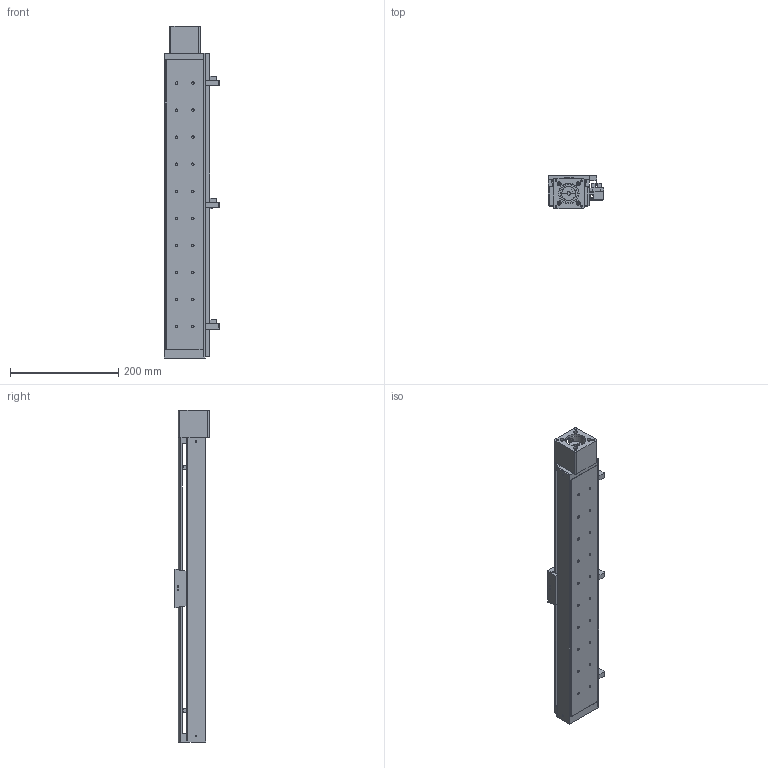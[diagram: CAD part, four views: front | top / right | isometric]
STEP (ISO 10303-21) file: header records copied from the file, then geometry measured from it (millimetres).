
FILE_DESCRIPTION((''),'2;1');
FILE_NAME('E:\uia actuator\UIA actuator 3d- 2009\Standard ball screw actuator\UIA076R9DC\UIA076R9DC-STEP file\with motor mount\UIA076R9DC step file 18Apr16\UIA076R9DC-450-R1205(or R1210)-M23-P13-C10-S.stp','2016-04-20T08:29:09',('h029'),(''),'Autodesk Inventor 11','Autodesk Inventor 11','');
FILE_SCHEMA(('AUTOMOTIVE_DESIGN { 1 0 10303 214 1 1 1 1 }'));
Length unit declared in the file: millimetre
Products named in the file (10): UIA076R9DC-450-R1205(or R1210)-M23-P13-C10-S; UIA076R9DC-450-BODY; UIA076R9DC-450-sensor rail; UIA076R9DC-CARRIAGE; UIA076R9DC-SENSOR FLAG; 01-100 0110 Motor MOUNT-M23; SOH-25C; SOH-25C-2; SOH-25C-3; SOH-25C-1
Assembly tree (9 placements, depth 3):
  UIA076R9DC-450-R1205(or R1210)-M23-P13-C10-S
    UIA076R9DC-450-BODY
    UIA076R9DC-450-sensor rail
    UIA076R9DC-CARRIAGE
    UIA076R9DC-SENSOR FLAG
    01-100 0110 Motor MOUNT-M23
    SOH-25C
      SOH-25C-2
      SOH-25C-3
      SOH-25C-1
Bounding box: 103 x 63 x 614.2 mm (x, y, z)
Volume: 916658.4 mm3; surface area: 368968.6 mm2
Topology: 8 solids, 8 shells, 440 faces, 1215 edges, 800 vertices
Faces by surface type: plane 295, cylinder 117, cone 21, bspline 7
Full cylindrical faces by diameter (mm): 2.459 x8, 3 x2, 3.242 x16, 3.5 x4, 4 x6, 4.5 x24, 6 x2, 7.5 x24, 22 x1, 25.5 x3, 32 x1, 37 x1, 38.1 x1
Entity records: 13874 total; most frequent: CARTESIAN_POINT 2732, DIRECTION 2218, ORIENTED_EDGE 2096, EDGE_CURVE 1048, VECTOR 760, LINE 760, VERTEX_POINT 753, AXIS2_PLACEMENT_3D 729
